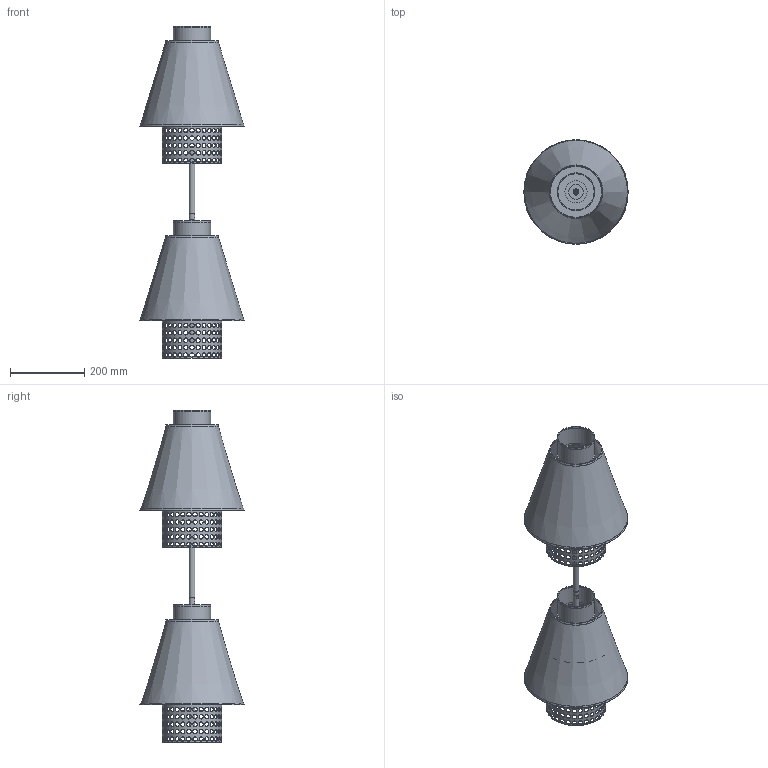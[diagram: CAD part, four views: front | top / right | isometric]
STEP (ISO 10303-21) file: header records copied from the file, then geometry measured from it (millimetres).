
FILE_DESCRIPTION( ( 'STEP AP203' ), '1' );
FILE_NAME( '//srvbf/BF Disegni/MARINELLI FABIO/SATURN/SATURN-L Lumetto SATURN.stp', '2020-10-15T13:15:45', ( ' ' ), ( ' ' ), 'XStep 1.0', ' ', ' ' );
FILE_SCHEMA( ( 'CONFIG_CONTROL_DESIGN) ( )' ) );
Length unit declared in the file: metre
Products named in the file (15): Assem1; 1; 2; 3; 4; 5; 6; 7; 8; 9; 10; 11; 12; 13; 14
Bounding box: 281.2 x 281.2 x 895 mm (x, y, z)
Volume: 867064 mm3; surface area: 1157044.8 mm2
Topology: 28 solids, 28 shells, 476 faces, 1266 edges, 846 vertices
Faces by surface type: cylinder 406, plane 56, cone 14
Full cylindrical faces by diameter (mm): 4.917 x2, 6.5 x2, 8.917 x4, 12 x360, 12.8 x4, 13 x2, 16 x2, 40 x2, 60 x2, 98 x2, 100 x2, 100.2 x4, 101.2 x4, 158 x2, 160 x2, 160.2 x4, 161.2 x4, 200 x2
Entity records: 36612 total; most frequent: CARTESIAN_POINT 30745, EDGE_LOOP 838, ORIENTED_EDGE 838, DIRECTION 620, FACE_OUTER_BOUND 441, EDGE_CURVE 419, VERTEX_POINT 419, FACE_BOUND 397
